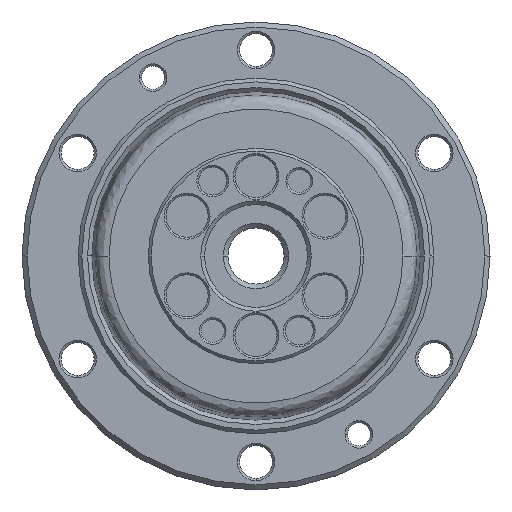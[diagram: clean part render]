
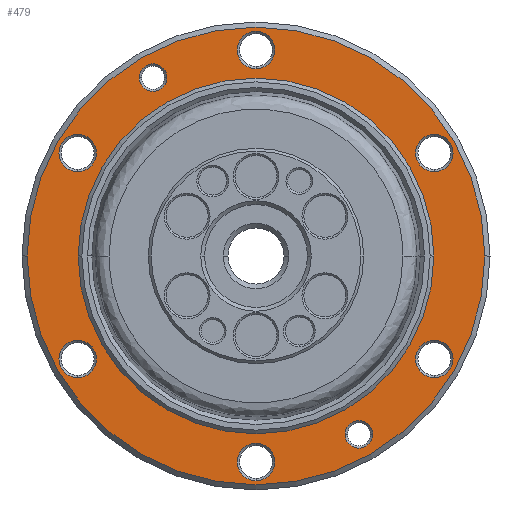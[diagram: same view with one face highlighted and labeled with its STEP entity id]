
A CAD part, left-side view. The second image highlights one B-rep face of the part: STEP entity #479.
In plain terms, the highlighted planar face has unit normal (-1, 0, 0).
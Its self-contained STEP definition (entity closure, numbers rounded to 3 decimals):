
#479=ADVANCED_FACE('NONE',(#1065,#1066,#1067,#1068,#1069,#1070,#1071,#1072,#1073,#1074),#1075,.F.);
#1065=FACE_OUTER_BOUND('',#2481,.T.);
#1066=FACE_BOUND('',#2482,.T.);
#1067=FACE_BOUND('',#2483,.T.);
#1068=FACE_BOUND('',#2484,.T.);
#1069=FACE_BOUND('',#2485,.T.);
#1070=FACE_BOUND('',#2486,.T.);
#1071=FACE_BOUND('',#2487,.T.);
#1072=FACE_BOUND('',#2488,.T.);
#1073=FACE_BOUND('',#2489,.T.);
#1074=FACE_BOUND('',#2490,.T.);
#1075=PLANE('',#2491);
#2481=EDGE_LOOP('',(#4402,#4403));
#2482=EDGE_LOOP('',(#4404,#4405));
#2483=EDGE_LOOP('',(#4406,#4407));
#2484=EDGE_LOOP('',(#4408,#4409));
#2485=EDGE_LOOP('',(#4410,#4411));
#2486=EDGE_LOOP('',(#4412,#4413));
#2487=EDGE_LOOP('',(#4414,#4415));
#2488=EDGE_LOOP('',(#4416,#4417));
#2489=EDGE_LOOP('',(#4418,#4419));
#2490=EDGE_LOOP('',(#4420,#4421));
#2491=AXIS2_PLACEMENT_3D('',#4422,#4423,#4424);
#4402=ORIENTED_EDGE('',*,*,#5585,.F.);
#4403=ORIENTED_EDGE('',*,*,#5897,.F.);
#4404=ORIENTED_EDGE('',*,*,#5898,.F.);
#4405=ORIENTED_EDGE('',*,*,#5541,.F.);
#4406=ORIENTED_EDGE('',*,*,#5899,.F.);
#4407=ORIENTED_EDGE('',*,*,#5547,.F.);
#4408=ORIENTED_EDGE('',*,*,#5900,.F.);
#4409=ORIENTED_EDGE('',*,*,#5553,.F.);
#4410=ORIENTED_EDGE('',*,*,#5901,.F.);
#4411=ORIENTED_EDGE('',*,*,#5559,.F.);
#4412=ORIENTED_EDGE('',*,*,#5902,.F.);
#4413=ORIENTED_EDGE('',*,*,#5565,.F.);
#4414=ORIENTED_EDGE('',*,*,#5903,.F.);
#4415=ORIENTED_EDGE('',*,*,#5571,.F.);
#4416=ORIENTED_EDGE('',*,*,#5904,.F.);
#4417=ORIENTED_EDGE('',*,*,#5577,.F.);
#4418=ORIENTED_EDGE('',*,*,#5905,.F.);
#4419=ORIENTED_EDGE('',*,*,#5582,.F.);
#4420=ORIENTED_EDGE('',*,*,#5476,.F.);
#4421=ORIENTED_EDGE('',*,*,#5883,.F.);
#4422=CARTESIAN_POINT('',(-6.0,0.0,-25.0));
#4423=DIRECTION('',(1.0,0.0,0.0));
#4424=DIRECTION('',(0.0,1.0,0.0));
#5476=EDGE_CURVE('NONE',#6272,#6273,#6274,.T.);
#5541=EDGE_CURVE('NONE',#6388,#6390,#6391,.T.);
#5547=EDGE_CURVE('NONE',#6399,#6401,#6402,.T.);
#5553=EDGE_CURVE('NONE',#6410,#6412,#6413,.T.);
#5559=EDGE_CURVE('NONE',#6421,#6423,#6424,.T.);
#5565=EDGE_CURVE('NONE',#6432,#6434,#6435,.T.);
#5571=EDGE_CURVE('NONE',#6443,#6445,#6446,.T.);
#5577=EDGE_CURVE('NONE',#6454,#6456,#6457,.T.);
#5582=EDGE_CURVE('NONE',#6463,#6465,#6466,.T.);
#5585=EDGE_CURVE('NONE',#6469,#6470,#6471,.T.);
#5883=EDGE_CURVE('NONE',#6273,#6272,#6930,.T.);
#5897=EDGE_CURVE('NONE',#6470,#6469,#6944,.T.);
#5898=EDGE_CURVE('NONE',#6390,#6388,#6945,.T.);
#5899=EDGE_CURVE('NONE',#6401,#6399,#6946,.T.);
#5900=EDGE_CURVE('NONE',#6412,#6410,#6947,.T.);
#5901=EDGE_CURVE('NONE',#6423,#6421,#6948,.T.);
#5902=EDGE_CURVE('NONE',#6434,#6432,#6949,.T.);
#5903=EDGE_CURVE('NONE',#6445,#6443,#6950,.T.);
#5904=EDGE_CURVE('NONE',#6456,#6454,#6951,.T.);
#5905=EDGE_CURVE('NONE',#6465,#6463,#6952,.T.);
#6272=VERTEX_POINT('NONE',#7659);
#6273=VERTEX_POINT('NONE',#7660);
#6274=CIRCLE('',#7661,19.0);
#6388=VERTEX_POINT('NONE',#7799);
#6390=VERTEX_POINT('NONE',#7802);
#6391=CIRCLE('',#7803,2.);
#6399=VERTEX_POINT('NONE',#7812);
#6401=VERTEX_POINT('NONE',#7815);
#6402=CIRCLE('',#7816,2.);
#6410=VERTEX_POINT('NONE',#7825);
#6412=VERTEX_POINT('NONE',#7828);
#6413=CIRCLE('',#7829,2.);
#6421=VERTEX_POINT('NONE',#7838);
#6423=VERTEX_POINT('NONE',#7841);
#6424=CIRCLE('',#7842,2.);
#6432=VERTEX_POINT('NONE',#7851);
#6434=VERTEX_POINT('NONE',#7854);
#6435=CIRCLE('',#7855,2.);
#6443=VERTEX_POINT('NONE',#7864);
#6445=VERTEX_POINT('NONE',#7867);
#6446=CIRCLE('',#7868,2.);
#6454=VERTEX_POINT('NONE',#7877);
#6456=VERTEX_POINT('NONE',#7880);
#6457=CIRCLE('',#7881,1.479);
#6463=VERTEX_POINT('NONE',#7888);
#6465=VERTEX_POINT('NONE',#7891);
#6466=CIRCLE('',#7892,1.479);
#6469=VERTEX_POINT('NONE',#7896);
#6470=VERTEX_POINT('NONE',#7897);
#6471=CIRCLE('',#7898,24.45);
#6930=CIRCLE('',#8629,19.0);
#6944=CIRCLE('',#8643,24.45);
#6945=CIRCLE('',#8644,2.);
#6946=CIRCLE('',#8645,2.);
#6947=CIRCLE('',#8646,2.);
#6948=CIRCLE('',#8647,2.);
#6949=CIRCLE('',#8648,2.);
#6950=CIRCLE('',#8649,2.);
#6951=CIRCLE('',#8650,1.479);
#6952=CIRCLE('',#8651,1.479);
#7659=CARTESIAN_POINT('',(-6.0,-19.0,0.0));
#7660=CARTESIAN_POINT('',(-6.0,19.0,0.));
#7661=AXIS2_PLACEMENT_3D('',#9274,#9275,#9276);
#7799=CARTESIAN_POINT('',(-6.,0.,20.));
#7802=CARTESIAN_POINT('',(-6.,0.,24.));
#7803=AXIS2_PLACEMENT_3D('',#9383,#9384,#9385);
#7812=CARTESIAN_POINT('',(-6.,-19.053,9.));
#7815=CARTESIAN_POINT('',(-6.,-19.053,13.));
#7816=AXIS2_PLACEMENT_3D('',#9394,#9395,#9396);
#7825=CARTESIAN_POINT('',(-6.,-19.053,-13.));
#7828=CARTESIAN_POINT('',(-6.,-19.053,-9.));
#7829=AXIS2_PLACEMENT_3D('',#9405,#9406,#9407);
#7838=CARTESIAN_POINT('',(-6.,0.,-24.));
#7841=CARTESIAN_POINT('',(-6.,0.,-20.));
#7842=AXIS2_PLACEMENT_3D('',#9416,#9417,#9418);
#7851=CARTESIAN_POINT('',(-6.,19.053,-13.));
#7854=CARTESIAN_POINT('',(-6.,19.053,-9.));
#7855=AXIS2_PLACEMENT_3D('',#9427,#9428,#9429);
#7864=CARTESIAN_POINT('',(-6.,19.053,9.));
#7867=CARTESIAN_POINT('',(-6.,19.053,13.));
#7868=AXIS2_PLACEMENT_3D('',#9438,#9439,#9440);
#7877=CARTESIAN_POINT('',(-6.,-9.521,-19.053));
#7880=CARTESIAN_POINT('',(-6.,-12.479,-19.053));
#7881=AXIS2_PLACEMENT_3D('',#9449,#9450,#9451);
#7888=CARTESIAN_POINT('',(-6.,12.479,19.053));
#7891=CARTESIAN_POINT('',(-6.,9.521,19.053));
#7892=AXIS2_PLACEMENT_3D('',#9457,#9458,#9459);
#7896=CARTESIAN_POINT('',(-6.,24.45,0.0));
#7897=CARTESIAN_POINT('',(-6.,-24.45,0.));
#7898=AXIS2_PLACEMENT_3D('',#9461,#9462,#9463);
#8629=AXIS2_PLACEMENT_3D('',#9860,#9861,#9862);
#8643=AXIS2_PLACEMENT_3D('',#9896,#9897,#9898);
#8644=AXIS2_PLACEMENT_3D('',#9899,#9900,#9901);
#8645=AXIS2_PLACEMENT_3D('',#9902,#9903,#9904);
#8646=AXIS2_PLACEMENT_3D('',#9905,#9906,#9907);
#8647=AXIS2_PLACEMENT_3D('',#9908,#9909,#9910);
#8648=AXIS2_PLACEMENT_3D('',#9911,#9912,#9913);
#8649=AXIS2_PLACEMENT_3D('',#9914,#9915,#9916);
#8650=AXIS2_PLACEMENT_3D('',#9917,#9918,#9919);
#8651=AXIS2_PLACEMENT_3D('',#9920,#9921,#9922);
#9274=CARTESIAN_POINT('',(-6.0,0.0,0.0));
#9275=DIRECTION('',(-1.0,0.0,0.0));
#9276=DIRECTION('',(0.0,-1.0,0.0));
#9383=CARTESIAN_POINT('',(-6.,0.,22.0));
#9384=DIRECTION('',(-1.0,0.0,0.0));
#9385=DIRECTION('',(0.0,0.0,1.0));
#9394=CARTESIAN_POINT('',(-6.,-19.053,11.0));
#9395=DIRECTION('',(-1.0,0.0,0.));
#9396=DIRECTION('',(0.,0.0,1.0));
#9405=CARTESIAN_POINT('',(-6.,-19.053,-11.0));
#9406=DIRECTION('',(-1.0,0.0,0.));
#9407=DIRECTION('',(0.,0.0,1.0));
#9416=CARTESIAN_POINT('',(-6.,0.,-22.0));
#9417=DIRECTION('',(-1.0,0.0,0.0));
#9418=DIRECTION('',(0.0,0.0,1.0));
#9427=CARTESIAN_POINT('',(-6.,19.053,-11.0));
#9428=DIRECTION('',(-1.0,0.0,0.));
#9429=DIRECTION('',(0.,0.0,1.0));
#9438=CARTESIAN_POINT('',(-6.,19.053,11.0));
#9439=DIRECTION('',(-1.0,0.0,0.));
#9440=DIRECTION('',(0.,0.0,1.0));
#9449=CARTESIAN_POINT('',(-6.,-11.0,-19.053));
#9450=DIRECTION('',(-1.0,0.0,0.0));
#9451=DIRECTION('',(0.0,-1.0,0.0));
#9457=CARTESIAN_POINT('',(-6.,11.0,19.053));
#9458=DIRECTION('',(-1.0,0.0,0.0));
#9459=DIRECTION('',(0.0,-1.0,0.0));
#9461=CARTESIAN_POINT('',(-6.,0.0,0.0));
#9462=DIRECTION('',(1.0,0.0,0.0));
#9463=DIRECTION('',(0.0,1.0,0.0));
#9860=CARTESIAN_POINT('',(-6.0,0.0,0.0));
#9861=DIRECTION('',(-1.0,0.0,0.0));
#9862=DIRECTION('',(0.0,-1.0,0.0));
#9896=CARTESIAN_POINT('',(-6.,0.0,0.0));
#9897=DIRECTION('',(1.0,0.0,0.0));
#9898=DIRECTION('',(0.0,1.0,0.0));
#9899=CARTESIAN_POINT('',(-6.,0.,22.0));
#9900=DIRECTION('',(-1.0,0.0,0.0));
#9901=DIRECTION('',(0.0,0.0,1.0));
#9902=CARTESIAN_POINT('',(-6.,-19.053,11.0));
#9903=DIRECTION('',(-1.0,0.0,0.));
#9904=DIRECTION('',(0.,0.0,1.0));
#9905=CARTESIAN_POINT('',(-6.,-19.053,-11.0));
#9906=DIRECTION('',(-1.0,0.0,0.));
#9907=DIRECTION('',(0.,0.0,1.0));
#9908=CARTESIAN_POINT('',(-6.,0.,-22.0));
#9909=DIRECTION('',(-1.0,0.0,0.0));
#9910=DIRECTION('',(0.0,0.0,1.0));
#9911=CARTESIAN_POINT('',(-6.,19.053,-11.0));
#9912=DIRECTION('',(-1.0,0.0,0.));
#9913=DIRECTION('',(0.,0.0,1.0));
#9914=CARTESIAN_POINT('',(-6.,19.053,11.0));
#9915=DIRECTION('',(-1.0,0.0,0.));
#9916=DIRECTION('',(0.,0.0,1.0));
#9917=CARTESIAN_POINT('',(-6.,-11.0,-19.053));
#9918=DIRECTION('',(-1.0,0.0,0.0));
#9919=DIRECTION('',(0.0,-1.0,0.0));
#9920=CARTESIAN_POINT('',(-6.,11.0,19.053));
#9921=DIRECTION('',(-1.0,0.0,0.0));
#9922=DIRECTION('',(0.0,-1.0,0.0));
